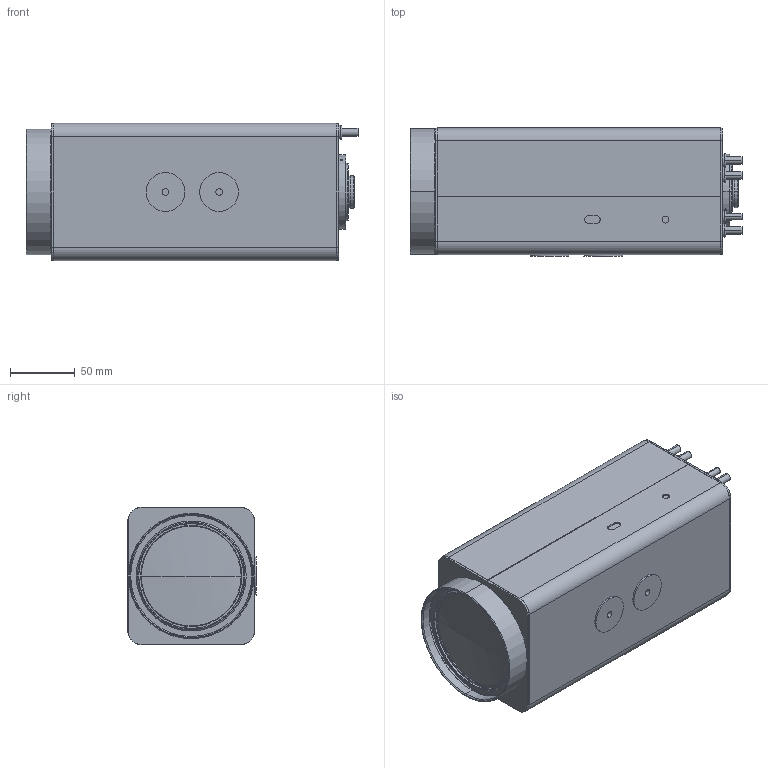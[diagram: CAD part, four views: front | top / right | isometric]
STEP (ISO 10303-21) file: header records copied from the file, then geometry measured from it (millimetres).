
FILE_DESCRIPTION (( 'STEP AP203' ), '1' );
FILE_NAME ('Y33Z15RHADP8EV：U1.STEP', '2017-09-22T06:42:24', ( '' ), ( '' ), 'SwSTEP 2.0', 'SolidWorks 2017', '' );
FILE_SCHEMA (( 'CONFIG_CONTROL_DESIGN' ));
Length unit declared in the file: millimetre
Products named in the file (1): Y33Z15RHADP8EV：U1
Bounding box: 256.6 x 99.2 x 106 mm (x, y, z)
Volume: 2386769 mm3; surface area: 123979 mm2
Topology: 1 solids, 1 shells, 189 faces, 419 edges, 262 vertices
Faces by surface type: cylinder 83, plane 66, cone 30, torus 8, sphere 2
Entity records: 5362 total; most frequent: DIRECTION 993, CARTESIAN_POINT 949, ORIENTED_EDGE 826, EDGE_CURVE 413, AXIS2_PLACEMENT_3D 396, VERTEX_POINT 262, EDGE_LOOP 225, CIRCLE 206
